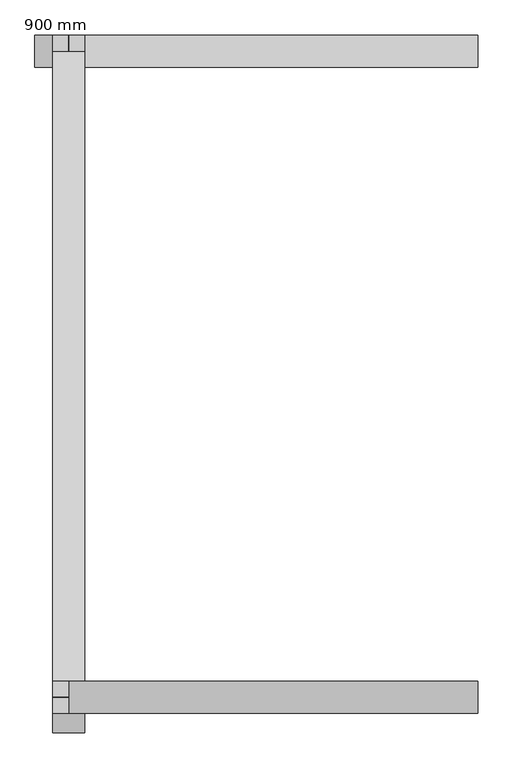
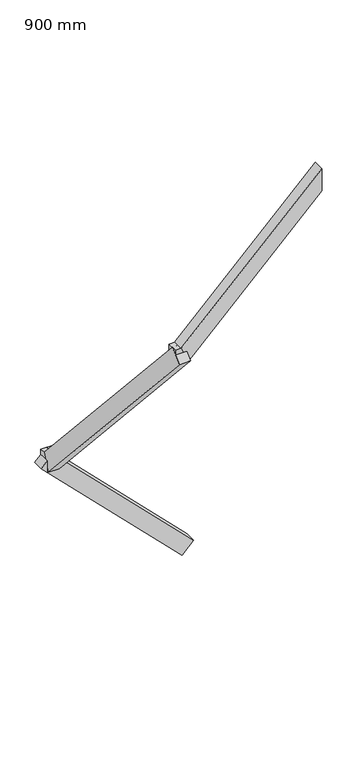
"""IFC4 building model written with IfcOpenShell, lengths in millimetres: railing geometry, 900 mm."""

from ifc_helpers import new_model, si_unit, origin, place, context, project, spatial, faceted_brep, source, transform, mapped, element, save


def railing_900_mm_3c93f63a(model_context):
    return source(origin(), model_context, "Body", "Brep", [
        faceted_brep([(-2530.0228675, -2832.4888028, -1562.8125), (-2530.0228675, -2883.2888028, -1562.8125), (-2583.8525202, -2883.2888028, -1616.7458708), (-2583.8525202, -2832.4888028, -1616.7458708), (-3180.0009162, -2832.4888028, -914.084409), (-3233.830569, -2832.4888028, -968.0177798), (-3233.830569, -2883.2888028, -968.0177798), (-3180.0009162, -2883.2888028, -914.084409)], [[[0, 1, 2, 3]], [[4, 5, 6, 7]], [[1, 0, 4, 7]], [[2, 1, 7, 6]], [[3, 2, 6, 5]], [[0, 3, 5, 4]]]),
        faceted_brep([(-3205.8228675, -2832.4888028, -914.084409), (-3155.0228675, -2832.4888028, -914.084409), (-3155.0228675, -2832.4888028, -990.284409), (-3205.8228675, -2832.4888028, -990.284409), (-3205.8228675, -2858.2690226, -914.084409), (-3155.0228675, -2858.2690226, -914.084409), (-3155.0228675, -2892.1342478, -990.284409), (-3205.8228675, -2892.1342478, -990.284409), (-3205.8228675, -3883.308583, 221.271909), (-3205.8228675, -3939.8677945, 170.2082664), (-3155.0228675, -3939.8677945, 170.2082664), (-3155.0228675, -3883.308583, 221.271909)], [[[0, 1, 2, 3]], [[1, 0, 4, 5]], [[2, 1, 5, 6]], [[3, 2, 6, 7]], [[0, 3, 7, 4]], [[8, 9, 10, 11]], [[5, 4, 8, 11]], [[6, 5, 11, 10]], [[7, 6, 10, 9]], [[4, 7, 9, 8]]]),
        faceted_brep([(-3205.8228675, -3909.0888028, 221.271909), (-3205.8228675, -3858.2888028, 221.271909), (-3205.8228675, -3858.2888028, 145.071909), (-3205.8228675, -3909.0888028, 145.071909), (-3180.0009162, -3909.0888028, 221.271909), (-3180.0009162, -3858.2888028, 221.271909), (-3148.4807956, -3858.2888028, 145.071909), (-3148.4807956, -3909.0888028, 145.071909), (-2530.0228675, -3909.0888028, 870.0), (-2530.0228675, -3909.0888028, 762.340495), (-2530.0228675, -3858.2888028, 762.340495), (-2530.0228675, -3858.2888028, 870.0)], [[[0, 1, 2, 3]], [[1, 0, 4, 5]], [[2, 1, 5, 6]], [[3, 2, 6, 7]], [[0, 3, 7, 4]], [[8, 9, 10, 11]], [[5, 4, 8, 11]], [[6, 5, 11, 10]], [[7, 6, 10, 9]], [[4, 7, 9, 8]]]),
    ])


if __name__ == "__main__":
    model = new_model("IFC4")
    model_context = context("Model", 3, world=origin())
    ifc_project = project(units=[si_unit("LENGTHUNIT", "METRE", prefix="MILLI")], contexts=[model_context])
    site = spatial("IfcSite", under=ifc_project)
    building = spatial("IfcBuilding", under=site)
    placement = place(None, origin())
    railing_900_mm_shape = railing_900_mm_3c93f63a(model_context)
    element("IfcRailing", 1, ObjectType="900 mm", at=placement, inside=building, context=model_context, shape_type="MappedRepresentation", body=[
        mapped(railing_900_mm_shape, transform((0.0, 0.0, 0.0), x_axis=(1.0, 0.0, 0.0), y_axis=(0.0, 1.0, 0.0), z_axis=(0.0, 0.0, 1.0))),
    ])
    save(model, "model.ifc")
